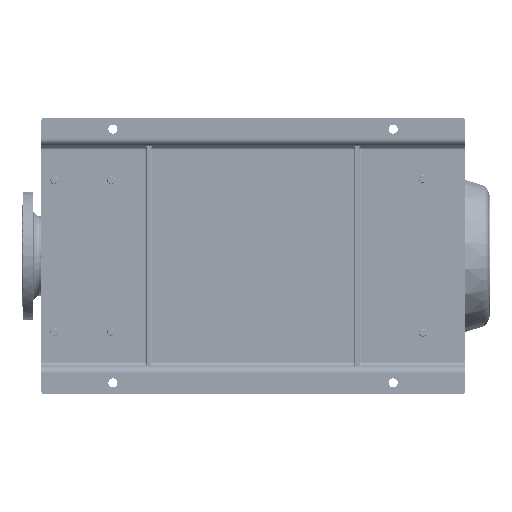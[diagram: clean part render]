
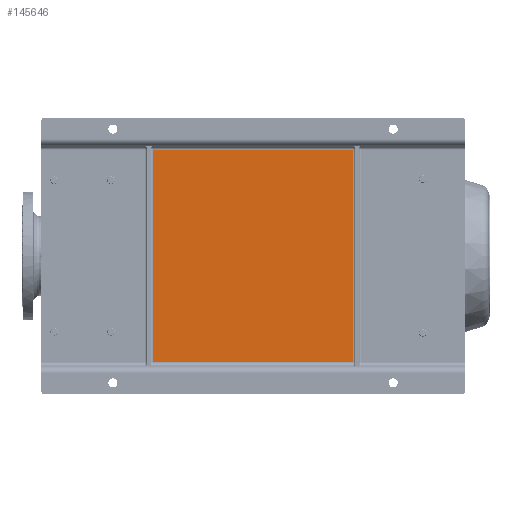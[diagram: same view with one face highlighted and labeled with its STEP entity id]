
A CAD part, front view. The second image highlights one B-rep face of the part: STEP entity #145646.
In plain terms, the highlighted planar face has unit normal (0, -1, 0).
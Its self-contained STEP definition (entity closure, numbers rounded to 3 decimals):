
#693 = PLANE ( 'NONE',  #100130 ) ;
#10198 = LINE ( 'NONE', #111647, #25702 ) ;
#17118 = EDGE_CURVE ( 'NONE', #46687, #36559, #29363, .T. ) ;
#19158 = EDGE_CURVE ( 'NONE', #126232, #52507, #113804, .T. ) ;
#21158 = ORIENTED_EDGE ( 'NONE', *, *, #19158, .T. ) ;
#23753 = VECTOR ( 'NONE', #129917, 1000. ) ;
#25702 = VECTOR ( 'NONE', #126818, 1000. ) ;
#29363 = LINE ( 'NONE', #41709, #30658 ) ;
#30658 = VECTOR ( 'NONE', #129896, 1000. ) ;
#36559 = VERTEX_POINT ( 'NONE', #103394 ) ;
#40630 = CARTESIAN_POINT ( 'NONE',  ( 645., 90., -825. ) ) ;
#41709 = CARTESIAN_POINT ( 'NONE',  ( 75., 90., -295. ) ) ;
#46687 = VERTEX_POINT ( 'NONE', #129952 ) ;
#52507 = VERTEX_POINT ( 'NONE', #40630 ) ;
#60881 = LINE ( 'NONE', #88399, #171789 ) ;
#83827 = CARTESIAN_POINT ( 'NONE',  ( 85., 90., -825. ) ) ;
#88399 = CARTESIAN_POINT ( 'NONE',  ( 85., 90., -830. ) ) ;
#100130 = AXIS2_PLACEMENT_3D ( 'NONE', #185607, #102114, #170447 ) ;
#102114 = DIRECTION ( 'NONE',  ( 0., -1., 0. ) ) ;
#103394 = CARTESIAN_POINT ( 'NONE',  ( 85., 90., -295. ) ) ;
#103947 = EDGE_LOOP ( 'NONE', ( #168019, #21158, #129235, #129599 ) ) ;
#110000 = EDGE_CURVE ( 'NONE', #36559, #126232, #60881, .T. ) ;
#111647 = CARTESIAN_POINT ( 'NONE',  ( 645., 90., -290. ) ) ;
#113804 = LINE ( 'NONE', #142276, #23753 ) ;
#126232 = VERTEX_POINT ( 'NONE', #83827 ) ;
#126818 = DIRECTION ( 'NONE',  ( 0., 0., 1. ) ) ;
#129235 = ORIENTED_EDGE ( 'NONE', *, *, #163624, .T. ) ;
#129599 = ORIENTED_EDGE ( 'NONE', *, *, #17118, .T. ) ;
#129896 = DIRECTION ( 'NONE',  ( -1., 0., 0. ) ) ;
#129917 = DIRECTION ( 'NONE',  ( 1., 0., 0. ) ) ;
#129952 = CARTESIAN_POINT ( 'NONE',  ( 645., 90., -295. ) ) ;
#130602 = FACE_OUTER_BOUND ( 'NONE', #103947, .T. ) ;
#142276 = CARTESIAN_POINT ( 'NONE',  ( 75., 90., -825. ) ) ;
#145646 = ADVANCED_FACE ( 'NONE', ( #130602 ), #693, .T. ) ;
#163624 = EDGE_CURVE ( 'NONE', #52507, #46687, #10198, .T. ) ;
#168019 = ORIENTED_EDGE ( 'NONE', *, *, #110000, .T. ) ;
#170447 = DIRECTION ( 'NONE',  ( 0., 0., -1. ) ) ;
#171789 = VECTOR ( 'NONE', #177441, 1000. ) ;
#177441 = DIRECTION ( 'NONE',  ( 0., 0., -1. ) ) ;
#185607 = CARTESIAN_POINT ( 'NONE',  ( 75., 90., -1120. ) ) ;
